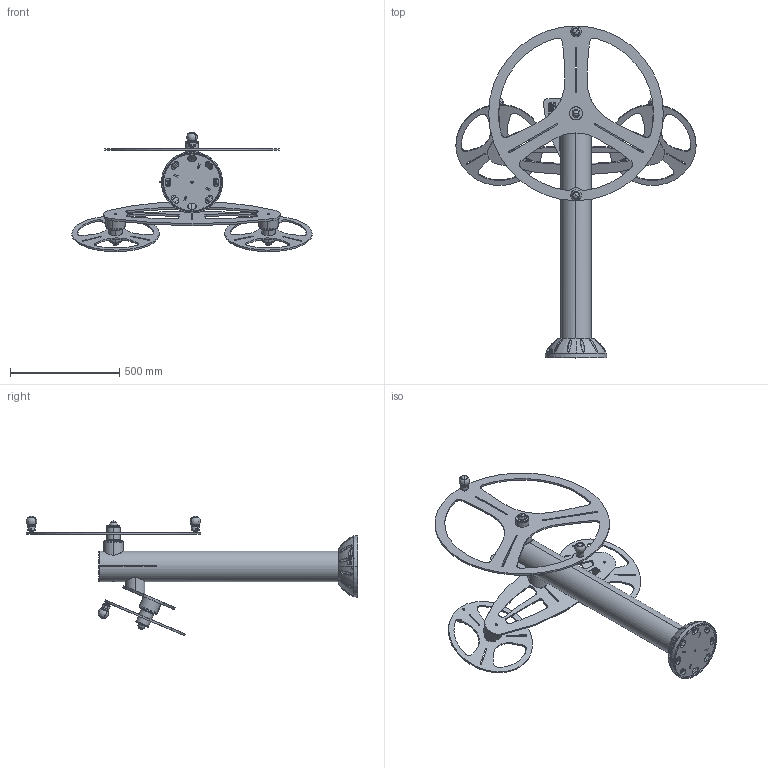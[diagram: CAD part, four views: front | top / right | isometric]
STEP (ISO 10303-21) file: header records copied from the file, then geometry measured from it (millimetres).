
FILE_DESCRIPTION (( 'STEP AP214' ), '1' );
FILE_NAME ('PMR0706 - DUO BARREUR VOLANTS PMR V1.0.STEP', '2020-03-12T17:00:30', ( '' ), ( '' ), 'SwSTEP 2.0', 'SolidWorks 2019', '' );
FILE_SCHEMA (( 'AUTOMOTIVE_DESIGN' ));
Length unit declared in the file: millimetre
Products named in the file (41): SC0304 - CACHE PLATINE ASS V4.0; VOLANT-S0206 - VOLANT V1.1; Ass Joint torique Volant - Barreur V1.0; SRR0816 - Roulement  6204 47-20-14; TROND88.9x100 - Tube D.88,9x3 L=100 V1.0; PALIER-S0206 - PALIER VOLANTS V1.1; TOLROUE-S0203.A - Roue barreur V1.1; SC0306B - Base pour capuchon en nylon 36mm; SB0112 - Vis Torx teton central M8x20_M8x20; PU-TOLGOPL - Gousset platine V2.0; SA1431 - Axe acier D.25 L272 V1.0; SC0304 - Demi cache platine D140 V4.0; PALIER-S0203 - PALIER BARREUR V1.0; TOLLOCOL - Tole logo colonne V1.0; PMR0706 - DUO BARREUR VOLANTS PMR V1.0; TROSM90-120-23° - Tube D.88,9x3 L=120 coupe à 23° V1.0; TOLVOLA-S0206.B - Volant D.400 V1.2; SA1434 - Axe acier D.25 L147 V1.0; PLATINE BASE ASS V2.0; SF1113 - Ecrou M10 A2_default; TROSM-90-50 - Tube D.88,9x3 L=50 V1.0_Tube palier avant-v‚lo elliptique-sans soudure; SBA1601 - Bague 6204 L60 V1.0; PU-TOLPLAT - Platine base V1.0; PU-TOLROND89-20 - Rondelle pour tube D.89 percée d.20 V1.0; SB0129 - Joint torique 18 X 6 _d.28 f.7; SCH1806.A - Chapeau D135 V1.0; SF1101 - Ecrou frein M10 A2; SC0306C - Petit capuchon en nylon 36 mm; PU-TOLROND89-25 - Rondelle pour tube D.89 percée d.25 V1.0; SP0608 - Poignée plastique tournante ELESA 247011; ROUE-S0203 - ROUE BARREUR V1.1; PU-TROCB1170 - Colonne base D.139,7x3 Ht1170 V1.0; SR0427 - Rondelle plastique bouchon bague D60 d.20; TOLSUPVOL-S0206 - Support volants V2.2; SR0416 - Rondelle plate petite M10 A2 ext 22mm; SB0130 - Joint torique 25X6 _d.28 f.7; BATI-PMR0706 - BATI DUO BARREUR VOLANTS PMR V1.0
Assembly tree (88 placements, depth 4):
  PMR0706 - DUO BARREUR VOLANTS PMR V1.0
    BATI-PMR0706 - BATI DUO BARREUR VOLANTS PMR V1.0
      PLATINE BASE ASS V2.0
        PU-TOLPLAT - Platine base V1.0
        PU-TOLGOPL - Gousset platine V2.0  x4
      PU-TROCB1170 - Colonne base D.139,7x3 Ht1170 V1.0
      PALIER-S0203 - PALIER BARREUR V1.0
        TROND88.9x100 - Tube D.88,9x3 L=100 V1.0
        SA1431 - Axe acier D.25 L272 V1.0
        PU-TOLROND89-20 - Rondelle pour tube D.89 percée d.20 V1.0
        PU-TOLROND89-25 - Rondelle pour tube D.89 percée d.25 V1.0
      SCH1806.A - Chapeau D135 V1.0
      TOLLOCOL - Tole logo colonne V1.0
      PALIER-S0206 - PALIER VOLANTS V1.1
        TROSM-90-50 - Tube D.88,9x3 L=50 V1.0_Tube palier avant-v‚lo elliptique-sans soudure
        SA1434 - Axe acier D.25 L147 V1.0
        PU-TOLROND89-20 - Rondelle pour tube D.89 percée d.20 V1.0
      PALIER-S0206 - PALIER VOLANTS V1.1
        TROSM-90-50 - Tube D.88,9x3 L=50 V1.0_Tube palier avant-v‚lo elliptique-sans soudure
        SA1434 - Axe acier D.25 L147 V1.0
        PU-TOLROND89-20 - Rondelle pour tube D.89 percée d.20 V1.0
      TROSM90-120-23° - Tube D.88,9x3 L=120 coupe à 23° V1.0
      TOLSUPVOL-S0206 - Support volants V2.2
    ROUE-S0203 - ROUE BARREUR V1.1
      TOLROUE-S0203.A - Roue barreur V1.1
      SBA1601 - Bague 6204 L60 V1.0
    SC0306C - Petit capuchon en nylon 36 mm  x3
    SC0306B - Base pour capuchon en nylon 36mm  x3
    SR0427 - Rondelle plastique bouchon bague D60 d.20  x6
    SRR0816 - Roulement  6204 47-20-14  x6
    SF1101 - Ecrou frein M10 A2  x3
    SR0416 - Rondelle plate petite M10 A2 ext 22mm  x3
    SC0304 - CACHE PLATINE ASS V4.0
      SC0304 - Demi cache platine D140 V4.0
      SB0112 - Vis Torx teton central M8x20_M8x20  x2
    SP0608 - Poignée plastique tournante ELESA 247011  x4
    SF1113 - Ecrou M10 A2_default  x4
    VOLANT-S0206 - VOLANT V1.1
      TOLVOLA-S0206.B - Volant D.400 V1.2
      SBA1601 - Bague 6204 L60 V1.0
    VOLANT-S0206 - VOLANT V1.1
      TOLVOLA-S0206.B - Volant D.400 V1.2
      SBA1601 - Bague 6204 L60 V1.0
    Ass Joint torique Volant - Barreur V1.0
      SB0130 - Joint torique 25X6 _d.28 f.7  x2
      SB0129 - Joint torique 18 X 6 _d.28 f.7  x3
    Ass Joint torique Volant - Barreur V1.0
      SB0130 - Joint torique 25X6 _d.28 f.7  x2
      SB0129 - Joint torique 18 X 6 _d.28 f.7  x3
    Ass Joint torique Volant - Barreur V1.0
      SB0130 - Joint torique 25X6 _d.28 f.7  x2
      SB0129 - Joint torique 18 X 6 _d.28 f.7  x3
Bounding box: 1099.8 x 1520 x 546.6 mm (x, y, z)
Volume: 8198009.7 mm3; surface area: 3034014.5 mm2
Topology: 101 solids, 101 shells, 2483 faces, 6013 edges, 3805 vertices
Faces by surface type: cylinder 735, plane 556, cone 394, bspline 338, torus 336, sphere 124
Entity records: 131702 total; most frequent: CARTESIAN_POINT 101605, ORIENTED_EDGE 5884, DIRECTION 5171, EDGE_CURVE 2942, AXIS2_PLACEMENT_3D 2126, VERTEX_POINT 1884, EDGE_LOOP 1382, CIRCLE 1178
